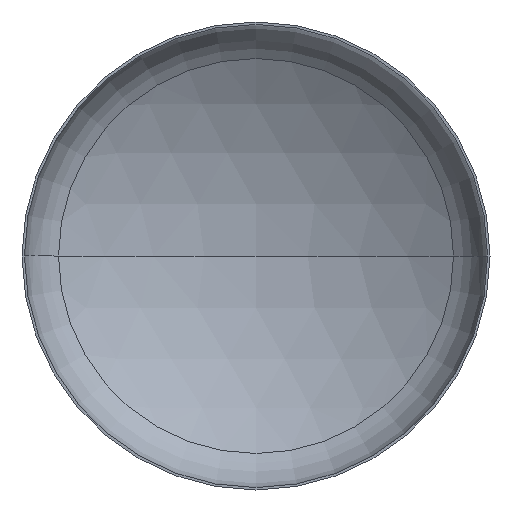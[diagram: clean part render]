
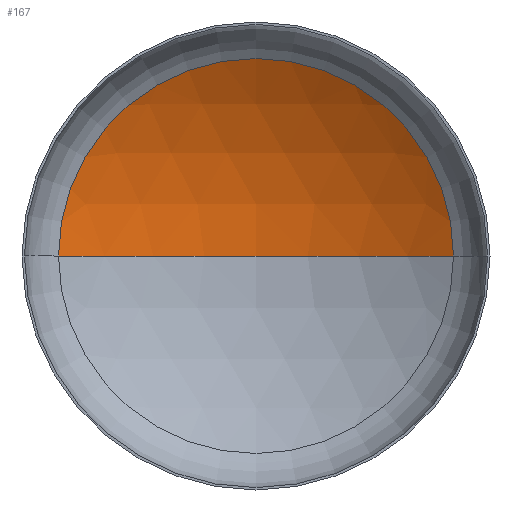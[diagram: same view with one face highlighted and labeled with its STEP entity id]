
A CAD part, front view. The second image highlights one B-rep face of the part: STEP entity #167.
In plain terms, the highlighted spherical face has radius 3040 mm.
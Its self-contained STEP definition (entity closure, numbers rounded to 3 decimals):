
#1 = SPHERICAL_SURFACE ( 'NONE', #111, 3040. ) ;
#13 = ORIENTED_EDGE ( 'NONE', *, *, #296, .T. ) ;
#15 = EDGE_LOOP ( 'NONE', ( #100, #117, #13 ) ) ;
#19 = CARTESIAN_POINT ( 'NONE',  ( 0., -2025.665, 0. ) ) ;
#23 = FACE_OUTER_BOUND ( 'NONE', #15, .T. ) ;
#86 = DIRECTION ( 'NONE',  ( 1., 0., 0. ) ) ;
#94 = VERTEX_POINT ( 'NONE', #286 ) ;
#99 = VERTEX_POINT ( 'NONE', #301 ) ;
#100 = ORIENTED_EDGE ( 'NONE', *, *, #245, .F. ) ;
#110 = VERTEX_POINT ( 'NONE', #299 ) ;
#111 = AXIS2_PLACEMENT_3D ( 'NONE', #19, #380, #194 ) ;
#116 = CARTESIAN_POINT ( 'NONE',  ( 0., 556.992, 0. ) ) ;
#117 = ORIENTED_EDGE ( 'NONE', *, *, #260, .T. ) ;
#119 = DIRECTION ( 'NONE',  ( 0., -1., 0. ) ) ;
#136 = CIRCLE ( 'NONE', #218, 3040. ) ;
#137 = CARTESIAN_POINT ( 'NONE',  ( 0., -2025.665, 0. ) ) ;
#140 = DIRECTION ( 'NONE',  ( 0., 0., 1. ) ) ;
#167 = ADVANCED_FACE ( 'NONE', ( #23 ), #1, .F. ) ;
#194 = DIRECTION ( 'NONE',  ( -1., 0., 0. ) ) ;
#197 = CIRCLE ( 'NONE', #319, 1603.585 ) ;
#218 = AXIS2_PLACEMENT_3D ( 'NONE', #137, #140, #257 ) ;
#230 = CARTESIAN_POINT ( 'NONE',  ( 0., -2025.665, 0. ) ) ;
#245 = EDGE_CURVE ( 'NONE', #99, #94, #136, .T. ) ;
#250 = AXIS2_PLACEMENT_3D ( 'NONE', #230, #401, #404 ) ;
#257 = DIRECTION ( 'NONE',  ( 1., 0., 0. ) ) ;
#260 = EDGE_CURVE ( 'NONE', #99, #110, #400, .T. ) ;
#286 = CARTESIAN_POINT ( 'NONE',  ( -1603.585, 556.992, 0. ) ) ;
#296 = EDGE_CURVE ( 'NONE', #110, #94, #197, .T. ) ;
#299 = CARTESIAN_POINT ( 'NONE',  ( 1603.585, 556.992, 0. ) ) ;
#301 = CARTESIAN_POINT ( 'NONE',  ( 0., 1014.335, 0. ) ) ;
#319 = AXIS2_PLACEMENT_3D ( 'NONE', #116, #119, #86 ) ;
#380 = DIRECTION ( 'NONE',  ( 0., 0., -1. ) ) ;
#400 = CIRCLE ( 'NONE', #250, 3040. ) ;
#401 = DIRECTION ( 'NONE',  ( 0., 0., -1. ) ) ;
#404 = DIRECTION ( 'NONE',  ( -1., 0., 0. ) ) ;
